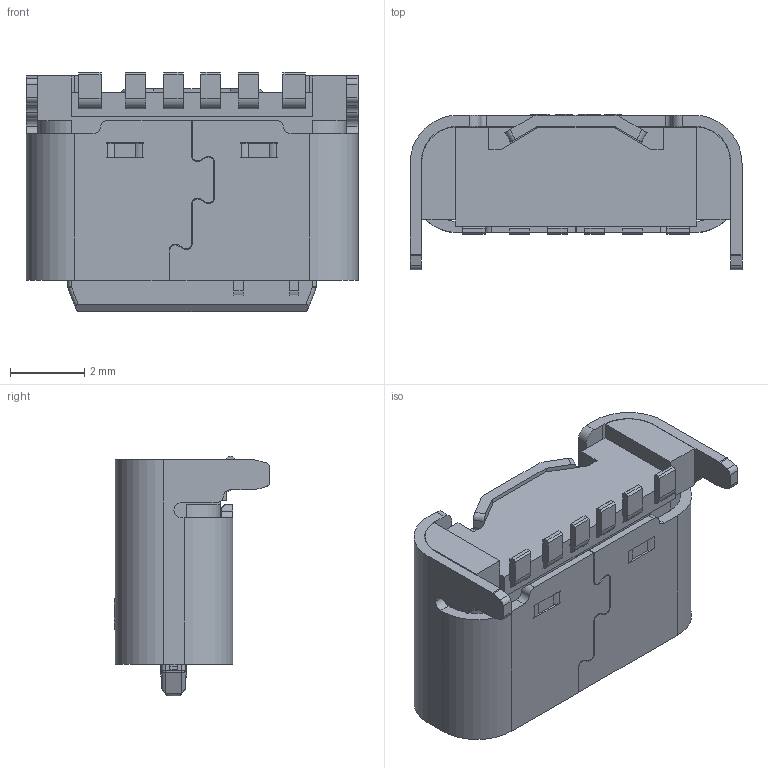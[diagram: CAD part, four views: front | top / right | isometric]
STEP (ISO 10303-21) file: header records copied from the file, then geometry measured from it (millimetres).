
FILE_DESCRIPTION (( 'STEP AP203' ), '1' );
FILE_NAME ('U5409-06PNW5.5L.STEP', '2026-09-22T06:23:15', ( '' ), ( '' ), 'SwSTEP 2.0', 'SolidWorks 2024', '' );
FILE_SCHEMA (( 'CONFIG_CONTROL_DESIGN' ));
Length unit declared in the file: millimetre
Products named in the file (7): U5409-06PNW5.5L; U5409-06PNW5.5L(2); ____; TYPE-C-6PIN______________6.8L(2); SHELL-CABAN; TYPE-C-6PIN____________6.8L(2); BOTTOM-HOUSING0
Assembly tree (6 placements, depth 5):
  U5409-06PNW5.5L
    U5409-06PNW5.5L(2)
      TYPE-C-6PIN______________6.8L(2)
        TYPE-C-6PIN____________6.8L(2)
          SHELL-CABAN
          ____
          BOTTOM-HOUSING0
Bounding box: 8.94 x 4.19 x 6.45 mm (x, y, z)
Volume: 89.2 mm3; surface area: 475 mm2
Topology: 8 solids, 8 shells, 686 faces, 1961 edges, 1284 vertices
Faces by surface type: plane 461, cylinder 180, bspline 25, sphere 8, cone 8, torus 4
Entity records: 24358 total; most frequent: CARTESIAN_POINT 5558, ORIENTED_EDGE 3910, DIRECTION 3589, EDGE_CURVE 1955, VECTOR 1515, LINE 1515, VERTEX_POINT 1282, AXIS2_PLACEMENT_3D 1037
